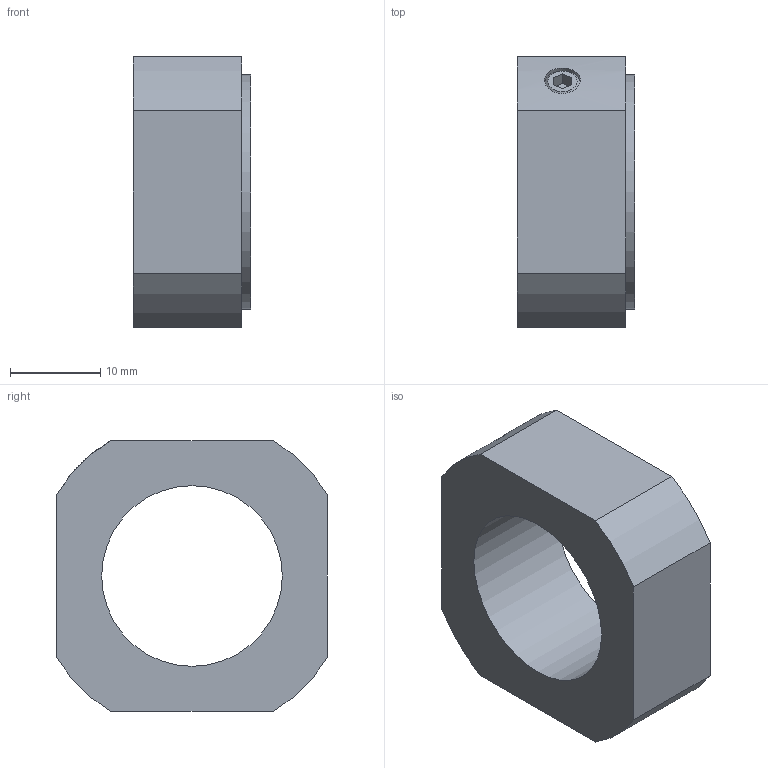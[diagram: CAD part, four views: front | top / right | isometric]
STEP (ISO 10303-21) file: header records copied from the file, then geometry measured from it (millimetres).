
FILE_DESCRIPTION((''),'2;1');
FILE_NAME('D:\製品 (図面)\カタログ用3D\ネジ関連\STEP形式\LNM\LNM20×1.stp','2010-06-02T14:36:31',('Tsuchiya'),(''),'Autodesk Inventor 10','Autodesk Inventor 10','');
FILE_SCHEMA(('AUTOMOTIVE_DESIGN { 1 0 10303 214 1 1 1 1 }'));
Length unit declared in the file: millimetre
Products named in the file (1): LNM20×1
Bounding box: 13 x 30 x 30 mm (x, y, z)
Volume: 6521.1 mm3; surface area: 3244.6 mm2
Topology: 1 solids, 1 shells, 23 faces, 55 edges, 37 vertices
Faces by surface type: plane 15, cylinder 6, cone 1, bspline 1
Full cylindrical faces by diameter (mm): 4 x1, 26 x1
Entity records: 738 total; most frequent: CARTESIAN_POINT 187, DIRECTION 108, ORIENTED_EDGE 100, EDGE_CURVE 50, AXIS2_PLACEMENT_3D 37, VERTEX_POINT 36, VECTOR 34, LINE 34
